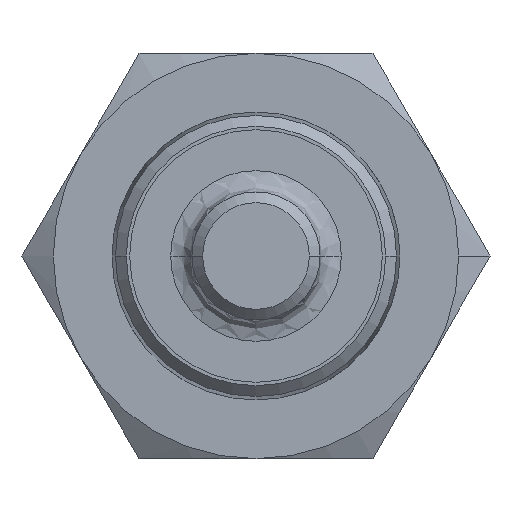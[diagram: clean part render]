
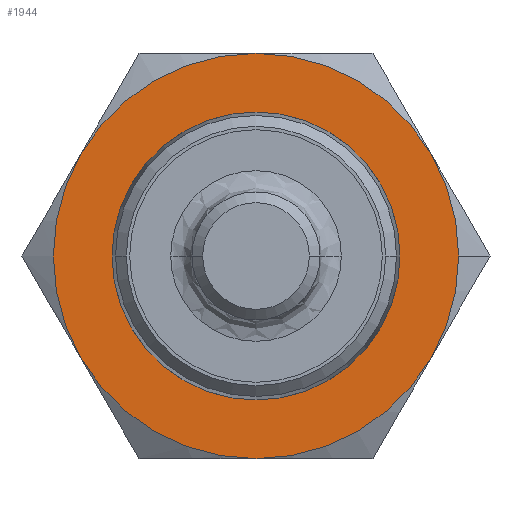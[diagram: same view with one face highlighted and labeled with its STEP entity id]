
A CAD part, front view. The second image highlights one B-rep face of the part: STEP entity #1944.
In plain terms, the highlighted free-form (B-spline) face has degree [1, 1] with [2, 2] control points.
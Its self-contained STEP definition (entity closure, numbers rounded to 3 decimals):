
#314=CARTESIAN_POINT('',(8.227,50.,-4.75));
#352=CARTESIAN_POINT('',(0.,50.,-9.5));
#390=CARTESIAN_POINT('',(-8.227,50.,-4.75));
#428=CARTESIAN_POINT('',(-8.227,50.,4.75));
#466=CARTESIAN_POINT('',(0.,50.,9.5));
#504=CARTESIAN_POINT('',(8.227,50.,4.75));
#528=CARTESIAN_POINT('',(0.,50.,0.));
#529=DIRECTION('',(0.,-1.,0.));
#530=DIRECTION('',(-0.866,0.,0.5));
#531=AXIS2_PLACEMENT_3D('',#528,#529,#530);
#537=CARTESIAN_POINT('',(0.,50.,0.));
#538=DIRECTION('',(0.,-1.,0.));
#539=DIRECTION('',(-1.,0.,0.));
#540=AXIS2_PLACEMENT_3D('',#537,#538,#539);
#542=CARTESIAN_POINT('',(0.,50.,0.));
#543=DIRECTION('',(0.,1.,0.));
#544=DIRECTION('',(-1.,0.,0.));
#545=AXIS2_PLACEMENT_3D('',#542,#543,#544);
#547=CARTESIAN_POINT('',(0.,50.,0.));
#548=DIRECTION('',(0.,-1.,0.));
#549=DIRECTION('',(0.,0.,1.));
#550=AXIS2_PLACEMENT_3D('',#547,#548,#549);
#552=CARTESIAN_POINT('',(0.,50.,0.));
#553=DIRECTION('',(0.,-1.,0.));
#554=DIRECTION('',(0.866,0.,0.5));
#555=AXIS2_PLACEMENT_3D('',#552,#553,#554);
#557=CARTESIAN_POINT('',(0.,50.,0.));
#558=DIRECTION('',(0.,-1.,0.));
#559=DIRECTION('',(1.,0.,0.));
#560=AXIS2_PLACEMENT_3D('',#557,#558,#559);
#562=CARTESIAN_POINT('',(0.,50.,0.));
#563=DIRECTION('',(0.,-1.,0.));
#564=DIRECTION('',(0.866,0.,-0.5));
#565=AXIS2_PLACEMENT_3D('',#562,#563,#564);
#567=CARTESIAN_POINT('',(0.,50.,0.));
#568=DIRECTION('',(0.,-1.,0.));
#569=DIRECTION('',(0.,0.,-1.));
#570=AXIS2_PLACEMENT_3D('',#567,#568,#569);
#572=CARTESIAN_POINT('',(0.,50.,0.));
#573=DIRECTION('',(0.,-1.,0.));
#574=DIRECTION('',(-0.866,0.,-0.5));
#575=AXIS2_PLACEMENT_3D('',#572,#573,#574);
#795=CARTESIAN_POINT('',(-6.75,50.,0.));
#796=CARTESIAN_POINT('',(6.75,50.,0.));
#797=VERTEX_POINT('',#795);
#798=VERTEX_POINT('',#796);
#807=VERTEX_POINT('',#390);
#812=VERTEX_POINT('',#428);
#816=VERTEX_POINT('',#466);
#820=VERTEX_POINT('',#504);
#824=VERTEX_POINT('',#314);
#826=VERTEX_POINT('',#352);
#827=CARTESIAN_POINT('',(9.5,50.,0.));
#828=VERTEX_POINT('',#827);
#1923=CARTESIAN_POINT('',(9.88,50.,9.88));
#1924=CARTESIAN_POINT('',(9.88,50.,-9.88));
#1925=CARTESIAN_POINT('',(-9.88,50.,9.88));
#1926=CARTESIAN_POINT('',(-9.88,50.,-9.88));
#1927=B_SPLINE_SURFACE_WITH_KNOTS('',1,1,((#1923,#1924),(#1925,#1926)),
.UNSPECIFIED.,.F.,.F.,.F.,(2,2),(2,2),(-9.88,9.88),(-9.88,9.88),
.UNSPECIFIED.);
#1928=ORIENTED_EDGE('',*,*,#1827,.F.);
#1929=ORIENTED_EDGE('',*,*,#1857,.F.);
#1930=ORIENTED_EDGE('',*,*,#1887,.F.);
#1931=ORIENTED_EDGE('',*,*,#1918,.F.);
#1933=ORIENTED_EDGE('',*,*,#1932,.F.);
#1934=ORIENTED_EDGE('',*,*,#1767,.F.);
#1935=ORIENTED_EDGE('',*,*,#1796,.F.);
#1936=EDGE_LOOP('',(#1928,#1929,#1930,#1931,#1933,#1934,#1935));
#1937=FACE_OUTER_BOUND('',#1936,.F.);
#1939=ORIENTED_EDGE('',*,*,#1938,.T.);
#1941=ORIENTED_EDGE('',*,*,#1940,.F.);
#1942=EDGE_LOOP('',(#1939,#1941));
#1943=FACE_BOUND('',#1942,.F.);
#532=CIRCLE('',#531,9.5);
#541=CIRCLE('',#540,6.75);
#546=CIRCLE('',#545,6.75);
#551=CIRCLE('',#550,9.5);
#556=CIRCLE('',#555,9.5);
#561=CIRCLE('',#560,9.5);
#566=CIRCLE('',#565,9.5);
#571=CIRCLE('',#570,9.5);
#576=CIRCLE('',#575,9.5);
#1767=EDGE_CURVE('',#826,#824,#571,.T.);
#1796=EDGE_CURVE('',#807,#826,#576,.T.);
#1827=EDGE_CURVE('',#812,#807,#532,.T.);
#1857=EDGE_CURVE('',#816,#812,#551,.T.);
#1887=EDGE_CURVE('',#820,#816,#556,.T.);
#1918=EDGE_CURVE('',#828,#820,#561,.T.);
#1932=EDGE_CURVE('',#824,#828,#566,.T.);
#1938=EDGE_CURVE('',#797,#798,#541,.T.);
#1940=EDGE_CURVE('',#797,#798,#546,.T.);
#1944=ADVANCED_FACE('',(#1937,#1943),#1927,.T.);
